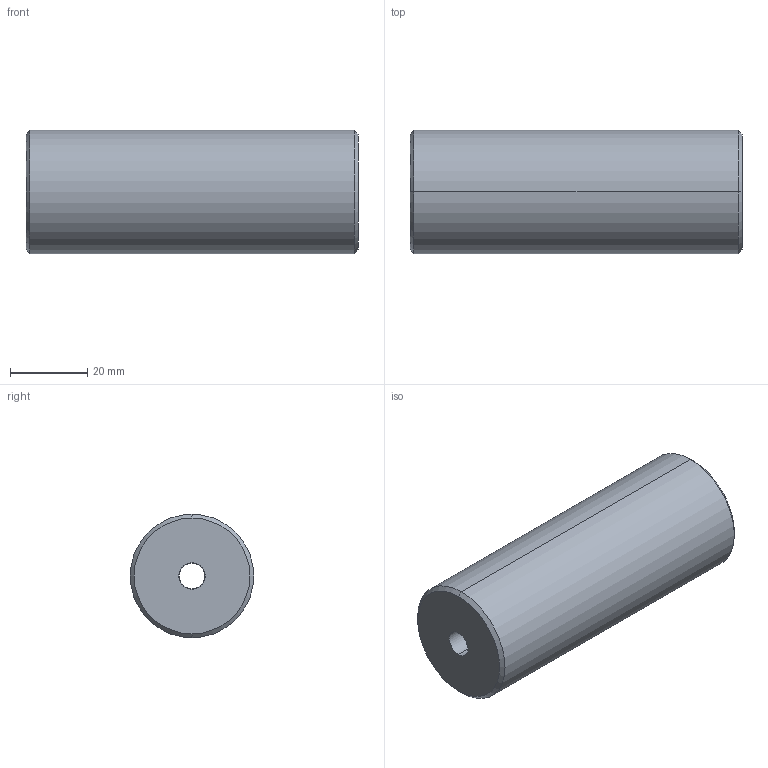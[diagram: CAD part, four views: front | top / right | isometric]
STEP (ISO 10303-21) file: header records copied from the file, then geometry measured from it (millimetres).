
FILE_DESCRIPTION (( 'STEP AP214' ), '1' );
FILE_NAME ('IMC-ES2-32x86.STEP', '2023-01-16T12:58:03', ( '' ), ( '' ), 'SwSTEP 2.0', 'SolidWorks 2019', '' );
FILE_SCHEMA (( 'AUTOMOTIVE_DESIGN' ));
Length unit declared in the file: millimetre
Products named in the file (1): IMC-ES2-32x86
Bounding box: 86 x 32 x 32 mm (x, y, z)
Volume: 65693.8 mm3; surface area: 11948.5 mm2
Topology: 1 solids, 1 shells, 17 faces, 34 edges, 20 vertices
Faces by surface type: cylinder 8, cone 6, plane 3
Entity records: 504 total; most frequent: DIRECTION 90, CARTESIAN_POINT 72, ORIENTED_EDGE 68, AXIS2_PLACEMENT_3D 38, EDGE_CURVE 34, CIRCLE 20, VERTEX_POINT 20, EDGE_LOOP 20
